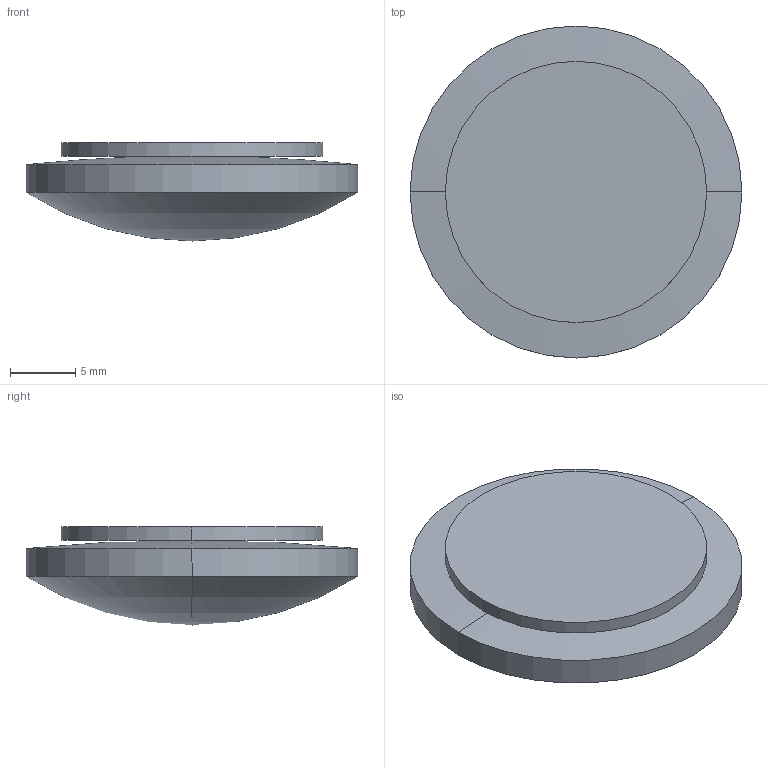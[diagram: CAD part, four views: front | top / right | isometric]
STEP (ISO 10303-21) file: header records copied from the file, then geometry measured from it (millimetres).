
FILE_DESCRIPTION(('STEP AP214'),'1');
FILE_NAME('LLV-25-40.STEP','2020-03-09T17:42:19',(' '),(' '),'Spatial InterOp 3D',' ',' ');
FILE_SCHEMA(('AUTOMOTIVE_DESIGN { 1 0 10303 214 1 1 1 1 }'));
Length unit declared in the file: millimetre
Products named in the file (1): 1
Bounding box: 25.4 x 25.4 x 7.5 mm (x, y, z)
Volume: 2529 mm3; surface area: 1919.7 mm2
Topology: 2 solids, 2 shells, 10 faces, 20 edges, 10 vertices
Faces by surface type: sphere 4, cylinder 4, plane 2
Entity records: 255 total; most frequent: DIRECTION 52, CARTESIAN_POINT 38, ORIENTED_EDGE 32, AXIS2_PLACEMENT_3D 24, EDGE_CURVE 16, CIRCLE 12, ADVANCED_FACE 10, FACE_OUTER_BOUND 10
